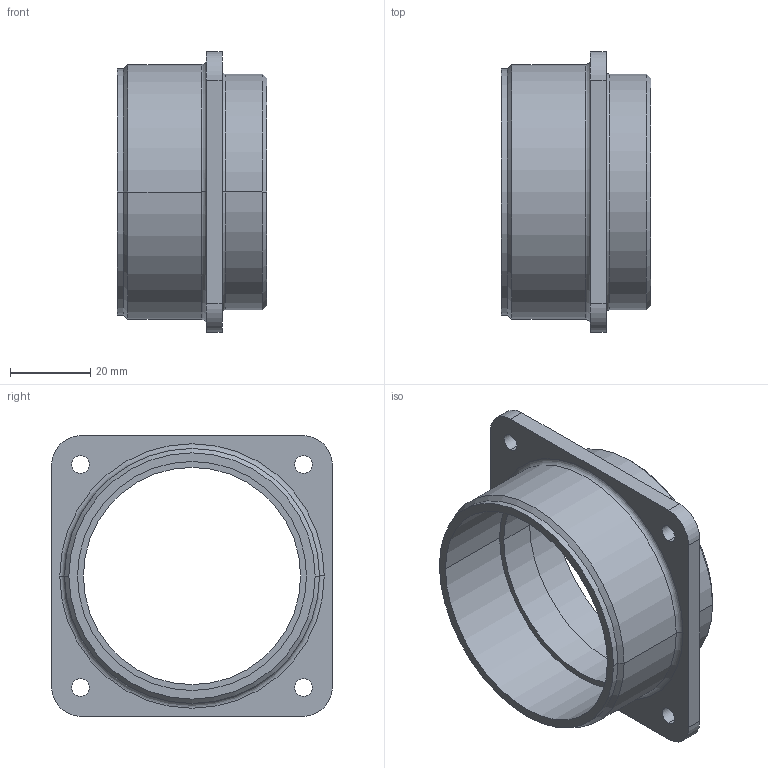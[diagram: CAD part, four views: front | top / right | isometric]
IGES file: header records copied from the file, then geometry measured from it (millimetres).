
Start section:  PTC IGES file: ms3102_40_shell.igs
Global section: file name: ms3102_40_shell.igs; native system: Creo Parametric by PTC Inc.; preprocessor: 2016260; author: t-nakamura; organization: Unknown; date: 20180228.114314; units: inch
Bounding box: 37.31 x 69.85 x 69.85 mm (x, y, z)
Surface area: 18806.8 mm2 (no closed solid volume)
Topology: 0 solids, 0 shells, 41 faces, 192 edges, 192 vertices
Faces by surface type: revolution 32, bspline 9
